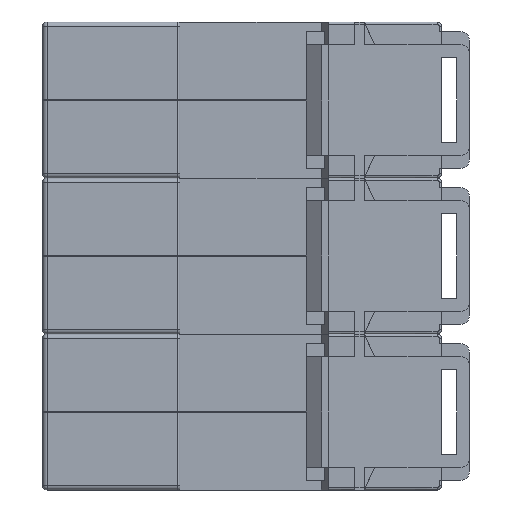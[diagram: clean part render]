
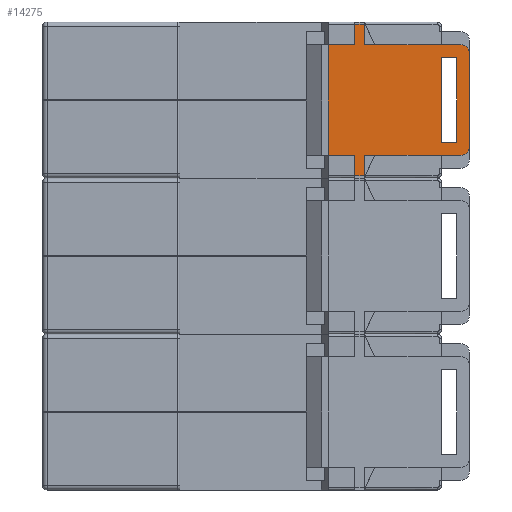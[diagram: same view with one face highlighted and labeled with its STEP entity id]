
A CAD part, front view. The second image highlights one B-rep face of the part: STEP entity #14275.
In plain terms, the highlighted planar face has unit normal (0, -1, 0).
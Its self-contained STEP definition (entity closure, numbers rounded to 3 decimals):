
#194=FACE_BOUND('',#5291,.T.);
#804=LINE('',#21378,#2413);
#808=LINE('',#21387,#2417);
#812=LINE('',#21394,#2421);
#818=LINE('',#21411,#2427);
#1032=LINE('',#21884,#2641);
#1038=LINE('',#21897,#2647);
#1044=LINE('',#21910,#2653);
#1048=LINE('',#21917,#2657);
#1051=LINE('',#21922,#2660);
#1064=LINE('',#21952,#2673);
#1067=LINE('',#21959,#2676);
#1073=LINE('',#21972,#2682);
#1075=LINE('',#21976,#2684);
#1083=LINE('',#21992,#2692);
#1089=LINE('',#22006,#2698);
#1093=LINE('',#22012,#2702);
#1094=LINE('',#22014,#2703);
#1095=LINE('',#22016,#2704);
#1096=LINE('',#22017,#2705);
#1097=LINE('',#22018,#2706);
#2413=VECTOR('',#17058,10.);
#2417=VECTOR('',#17064,10.);
#2421=VECTOR('',#17070,10.);
#2427=VECTOR('',#17086,10.);
#2641=VECTOR('',#17526,10.);
#2647=VECTOR('',#17540,10.);
#2653=VECTOR('',#17554,10.);
#2657=VECTOR('',#17560,10.);
#2660=VECTOR('',#17565,10.);
#2673=VECTOR('',#17594,10.);
#2676=VECTOR('',#17605,10.);
#2682=VECTOR('',#17617,10.);
#2684=VECTOR('',#17621,10.);
#2692=VECTOR('',#17637,10.);
#2698=VECTOR('',#17647,10.);
#2702=VECTOR('',#17655,10.);
#2703=VECTOR('',#17658,10.);
#2704=VECTOR('',#17659,10.);
#2705=VECTOR('',#17660,10.);
#2706=VECTOR('',#17661,10.);
#3869=PLANE('',#15335);
#4497=FACE_OUTER_BOUND('',#5290,.T.);
#5290=EDGE_LOOP('',(#11114,#11115,#11116,#11117,#11118,#11119,#11120,#11121,
#11122,#11123,#11124,#11125,#11126,#11127,#11128,#11129,#11130,#11131));
#5291=EDGE_LOOP('',(#11132,#11133,#11134,#11135));
#6000=CIRCLE('',#15303,2.);
#6001=CIRCLE('',#15306,2.);
#6599=VERTEX_POINT('',#21376);
#6600=VERTEX_POINT('',#21377);
#6603=VERTEX_POINT('',#21385);
#6604=VERTEX_POINT('',#21386);
#6606=VERTEX_POINT('',#21393);
#6611=VERTEX_POINT('',#21409);
#6612=VERTEX_POINT('',#21410);
#6757=VERTEX_POINT('',#21881);
#6758=VERTEX_POINT('',#21883);
#6760=VERTEX_POINT('',#21892);
#6761=VERTEX_POINT('',#21896);
#6764=VERTEX_POINT('',#21909);
#6766=VERTEX_POINT('',#21915);
#6767=VERTEX_POINT('',#21920);
#6775=VERTEX_POINT('',#21949);
#6776=VERTEX_POINT('',#21951);
#6780=VERTEX_POINT('',#21971);
#6781=VERTEX_POINT('',#21975);
#6785=VERTEX_POINT('',#21989);
#6790=VERTEX_POINT('',#22004);
#6791=VERTEX_POINT('',#22005);
#6792=VERTEX_POINT('',#22015);
#8093=EDGE_CURVE('',#6599,#6600,#804,.T.);
#8097=EDGE_CURVE('',#6603,#6604,#808,.T.);
#8101=EDGE_CURVE('',#6603,#6606,#812,.T.);
#8109=EDGE_CURVE('',#6611,#6612,#818,.T.);
#8349=EDGE_CURVE('',#6757,#6758,#1032,.T.);
#8354=EDGE_CURVE('',#6760,#6599,#6000,.T.);
#8356=EDGE_CURVE('',#6761,#6760,#1038,.T.);
#8358=EDGE_CURVE('',#6612,#6761,#6001,.T.);
#8363=EDGE_CURVE('',#6764,#6606,#1044,.T.);
#8367=EDGE_CURVE('',#6766,#6611,#1048,.T.);
#8370=EDGE_CURVE('',#6767,#6757,#1051,.T.);
#8384=EDGE_CURVE('',#6775,#6776,#1064,.T.);
#8388=EDGE_CURVE('',#6758,#6775,#1067,.T.);
#8394=EDGE_CURVE('',#6780,#6766,#1073,.T.);
#8396=EDGE_CURVE('',#6781,#6780,#1075,.T.);
#8405=EDGE_CURVE('',#6600,#6785,#1083,.T.);
#8411=EDGE_CURVE('',#6790,#6791,#1089,.T.);
#8415=EDGE_CURVE('',#6785,#6790,#1093,.T.);
#8416=EDGE_CURVE('',#6776,#6781,#1094,.T.);
#8417=EDGE_CURVE('',#6767,#6792,#1095,.T.);
#8418=EDGE_CURVE('',#6791,#6792,#1096,.T.);
#8419=EDGE_CURVE('',#6604,#6764,#1097,.T.);
#11114=ORIENTED_EDGE('',*,*,#8354,.F.);
#11115=ORIENTED_EDGE('',*,*,#8356,.F.);
#11116=ORIENTED_EDGE('',*,*,#8358,.F.);
#11117=ORIENTED_EDGE('',*,*,#8109,.F.);
#11118=ORIENTED_EDGE('',*,*,#8367,.F.);
#11119=ORIENTED_EDGE('',*,*,#8394,.F.);
#11120=ORIENTED_EDGE('',*,*,#8396,.F.);
#11121=ORIENTED_EDGE('',*,*,#8416,.F.);
#11122=ORIENTED_EDGE('',*,*,#8384,.F.);
#11123=ORIENTED_EDGE('',*,*,#8388,.F.);
#11124=ORIENTED_EDGE('',*,*,#8349,.F.);
#11125=ORIENTED_EDGE('',*,*,#8370,.F.);
#11126=ORIENTED_EDGE('',*,*,#8417,.T.);
#11127=ORIENTED_EDGE('',*,*,#8418,.F.);
#11128=ORIENTED_EDGE('',*,*,#8411,.F.);
#11129=ORIENTED_EDGE('',*,*,#8415,.F.);
#11130=ORIENTED_EDGE('',*,*,#8405,.F.);
#11131=ORIENTED_EDGE('',*,*,#8093,.F.);
#11132=ORIENTED_EDGE('',*,*,#8097,.T.);
#11133=ORIENTED_EDGE('',*,*,#8419,.T.);
#11134=ORIENTED_EDGE('',*,*,#8363,.T.);
#11135=ORIENTED_EDGE('',*,*,#8101,.F.);
#14275=ADVANCED_FACE('',(#4497,#194),#3869,.T.);
#15303=AXIS2_PLACEMENT_3D('',#21893,#17535,#17536);
#15306=AXIS2_PLACEMENT_3D('',#21900,#17544,#17545);
#15335=AXIS2_PLACEMENT_3D('',#22013,#17656,#17657);
#17058=DIRECTION('',(-1.,0.,0.));
#17064=DIRECTION('',(-1.,0.,0.));
#17070=DIRECTION('',(0.,0.,1.));
#17086=DIRECTION('',(1.,0.,0.));
#17526=DIRECTION('',(0.,0.,1.));
#17535=DIRECTION('center_axis',(0.,1.,0.));
#17536=DIRECTION('ref_axis',(0.707,0.,-0.707));
#17540=DIRECTION('',(0.,0.,-1.));
#17544=DIRECTION('center_axis',(0.,1.,0.));
#17545=DIRECTION('ref_axis',(0.707,0.,0.707));
#17554=DIRECTION('',(1.,0.,0.));
#17560=DIRECTION('',(1.,0.,0.));
#17565=DIRECTION('',(-1.,0.,0.));
#17594=DIRECTION('',(0.,0.,1.));
#17605=DIRECTION('',(1.,0.,0.));
#17617=DIRECTION('',(1.,0.,0.));
#17621=DIRECTION('',(0.,0.,-1.));
#17637=DIRECTION('',(-1.,0.,0.));
#17647=DIRECTION('',(0.,0.,-1.));
#17655=DIRECTION('',(-1.,0.,0.));
#17656=DIRECTION('center_axis',(0.,-1.,0.));
#17657=DIRECTION('ref_axis',(0.,0.,-1.));
#17658=DIRECTION('',(1.,0.,0.));
#17659=DIRECTION('',(0.,0.,-1.));
#17660=DIRECTION('',(-1.,0.,0.));
#17661=DIRECTION('',(0.,0.,1.));
#21376=CARTESIAN_POINT('',(94.3,0.05,5.1));
#21377=CARTESIAN_POINT('',(90.,0.05,5.1));
#21378=CARTESIAN_POINT('',(88.116,0.05,5.1));
#21385=CARTESIAN_POINT('',(93.4,0.05,8.1));
#21386=CARTESIAN_POINT('',(89.95,0.05,8.1));
#21387=CARTESIAN_POINT('',(84.966,0.05,8.1));
#21393=CARTESIAN_POINT('',(93.4,0.05,27.1));
#21394=CARTESIAN_POINT('',(93.4,0.05,12.85));
#21409=CARTESIAN_POINT('',(90.,0.05,30.1));
#21410=CARTESIAN_POINT('',(94.3,0.05,30.1));
#21411=CARTESIAN_POINT('',(88.116,0.05,30.1));
#21881=CARTESIAN_POINT('',(64.5,0.05,5.1));
#21883=CARTESIAN_POINT('',(64.5,0.05,30.1));
#21884=CARTESIAN_POINT('',(64.5,0.05,33.05));
#21892=CARTESIAN_POINT('',(96.3,0.05,7.1));
#21893=CARTESIAN_POINT('Origin',(94.3,0.05,7.1));
#21896=CARTESIAN_POINT('',(96.3,0.05,28.1));
#21897=CARTESIAN_POINT('',(96.3,0.05,17.6));
#21900=CARTESIAN_POINT('Origin',(94.3,0.05,28.1));
#21909=CARTESIAN_POINT('',(89.95,0.05,27.1));
#21910=CARTESIAN_POINT('',(84.966,0.05,27.1));
#21915=CARTESIAN_POINT('',(74.9,0.05,30.1));
#21917=CARTESIAN_POINT('',(90.,0.05,30.1));
#21920=CARTESIAN_POINT('',(70.4,0.05,5.1));
#21922=CARTESIAN_POINT('',(90.,0.05,5.1));
#21949=CARTESIAN_POINT('',(70.4,0.05,30.1));
#21951=CARTESIAN_POINT('',(70.4,0.05,34.7));
#21952=CARTESIAN_POINT('',(70.4,0.05,34.7));
#21959=CARTESIAN_POINT('',(90.,0.05,30.1));
#21971=CARTESIAN_POINT('',(72.6,0.05,30.1));
#21972=CARTESIAN_POINT('',(90.,0.05,30.1));
#21975=CARTESIAN_POINT('',(72.6,0.05,34.7));
#21976=CARTESIAN_POINT('',(72.6,0.05,31.25));
#21989=CARTESIAN_POINT('',(74.9,0.05,5.1));
#21992=CARTESIAN_POINT('',(90.,0.05,5.1));
#22004=CARTESIAN_POINT('',(72.6,0.05,5.1));
#22005=CARTESIAN_POINT('',(72.6,0.05,0.5));
#22006=CARTESIAN_POINT('',(72.6,0.05,3.95));
#22012=CARTESIAN_POINT('',(90.,0.05,5.1));
#22013=CARTESIAN_POINT('Origin',(79.931,0.05,17.6));
#22014=CARTESIAN_POINT('',(71.5,0.05,34.7));
#22015=CARTESIAN_POINT('',(70.4,0.05,0.5));
#22016=CARTESIAN_POINT('',(70.4,0.05,0.5));
#22017=CARTESIAN_POINT('',(71.5,0.05,0.5));
#22018=CARTESIAN_POINT('',(89.95,0.05,17.6));
